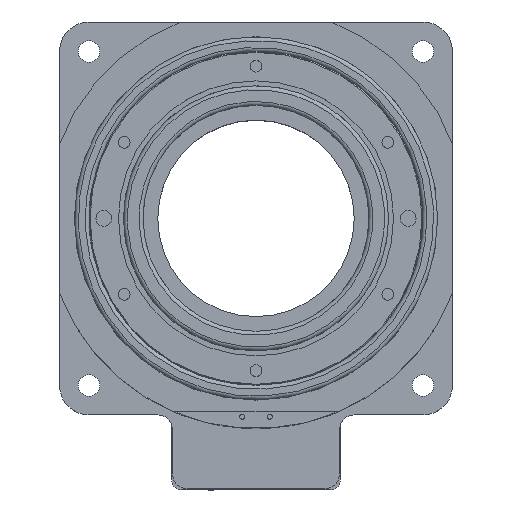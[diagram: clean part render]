
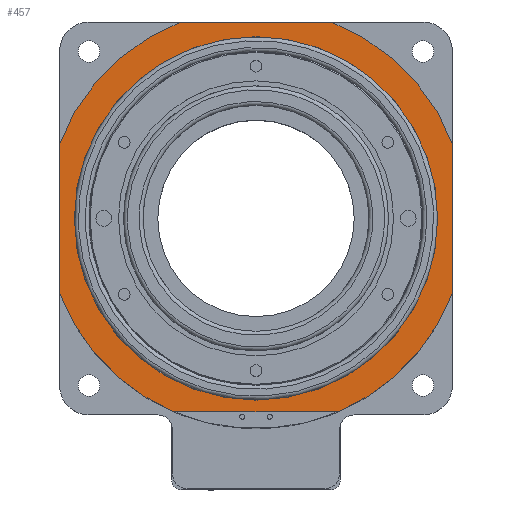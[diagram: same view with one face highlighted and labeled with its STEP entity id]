
A CAD part, top view. The second image highlights one B-rep face of the part: STEP entity #457.
In plain terms, the highlighted planar face has unit normal (0, 0, 1).
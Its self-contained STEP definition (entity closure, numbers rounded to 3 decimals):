
#148 = EDGE_CURVE ( 'NONE', #2591, #3096, #2737, .T. ) ;
#189 = DIRECTION ( 'NONE',  ( 0., 0., 1. ) ) ;
#323 = EDGE_LOOP ( 'NONE', ( #3317, #3258, #465, #3101, #960, #3702, #2866, #2835 ) ) ;
#426 = LINE ( 'NONE', #6488, #844 ) ;
#430 = EDGE_CURVE ( 'NONE', #3481, #3481, #3574, .T. ) ;
#457 = ADVANCED_FACE ( 'NONE', ( #5265, #1770 ), #5362, .T. ) ;
#465 = ORIENTED_EDGE ( 'NONE', *, *, #2002, .T. ) ;
#513 = DIRECTION ( 'NONE',  ( 1., 0., 0. ) ) ;
#691 = CARTESIAN_POINT ( 'NONE',  ( 100., -38.066, 42. ) ) ;
#700 = CARTESIAN_POINT ( 'NONE',  ( 0., 0., 42. ) ) ;
#844 = VECTOR ( 'NONE', #5796, 1000. ) ;
#864 = CARTESIAN_POINT ( 'NONE',  ( 0., 0., 42. ) ) ;
#960 = ORIENTED_EDGE ( 'NONE', *, *, #148, .T. ) ;
#972 = VECTOR ( 'NONE', #4771, 1000. ) ;
#1211 = DIRECTION ( 'NONE',  ( 0., 0., 1. ) ) ;
#1286 = EDGE_CURVE ( 'NONE', #1510, #1673, #4674, .T. ) ;
#1347 = VECTOR ( 'NONE', #1975, 1000. ) ;
#1357 = DIRECTION ( 'NONE',  ( -1., 0., 0. ) ) ;
#1510 = VERTEX_POINT ( 'NONE', #3176 ) ;
#1535 = AXIS2_PLACEMENT_3D ( 'NONE', #700, #5388, #4690 ) ;
#1673 = VERTEX_POINT ( 'NONE', #691 ) ;
#1759 = AXIS2_PLACEMENT_3D ( 'NONE', #6679, #5991, #5324 ) ;
#1770 = FACE_BOUND ( 'NONE', #5906, .T. ) ;
#1881 = CARTESIAN_POINT ( 'NONE',  ( 0., 0., 42. ) ) ;
#1975 = DIRECTION ( 'NONE',  ( -1., 0., 0. ) ) ;
#2002 = EDGE_CURVE ( 'NONE', #1673, #2122, #6124, .T. ) ;
#2050 = CARTESIAN_POINT ( 'NONE',  ( 38.066, 100., 42. ) ) ;
#2122 = VERTEX_POINT ( 'NONE', #6003 ) ;
#2147 = AXIS2_PLACEMENT_3D ( 'NONE', #864, #189, #6234 ) ;
#2221 = VECTOR ( 'NONE', #1357, 1000. ) ;
#2562 = AXIS2_PLACEMENT_3D ( 'NONE', #4842, #4117, #3402 ) ;
#2591 = VERTEX_POINT ( 'NONE', #6467 ) ;
#2648 = EDGE_CURVE ( 'NONE', #1510, #4348, #3344, .T. ) ;
#2668 = CARTESIAN_POINT ( 'NONE',  ( 0., -98.5, 42. ) ) ;
#2737 = LINE ( 'NONE', #2050, #2221 ) ;
#2805 = CARTESIAN_POINT ( 'NONE',  ( 92.5, 0., 42. ) ) ;
#2835 = ORIENTED_EDGE ( 'NONE', *, *, #3521, .T. ) ;
#2866 = ORIENTED_EDGE ( 'NONE', *, *, #6329, .T. ) ;
#3096 = VERTEX_POINT ( 'NONE', #6599 ) ;
#3101 = ORIENTED_EDGE ( 'NONE', *, *, #6381, .T. ) ;
#3176 = CARTESIAN_POINT ( 'NONE',  ( 41.794, -98.5, 42. ) ) ;
#3238 = DIRECTION ( 'NONE',  ( 1., 0., 0. ) ) ;
#3258 = ORIENTED_EDGE ( 'NONE', *, *, #1286, .T. ) ;
#3317 = ORIENTED_EDGE ( 'NONE', *, *, #2648, .F. ) ;
#3344 = LINE ( 'NONE', #2668, #1347 ) ;
#3402 = DIRECTION ( 'NONE',  ( 1., 0., 0. ) ) ;
#3481 = VERTEX_POINT ( 'NONE', #2805 ) ;
#3521 = EDGE_CURVE ( 'NONE', #4205, #4348, #3749, .T. ) ;
#3553 = CARTESIAN_POINT ( 'NONE',  ( -100., -38.066, 42. ) ) ;
#3574 = CIRCLE ( 'NONE', #2562, 92.5 ) ;
#3702 = ORIENTED_EDGE ( 'NONE', *, *, #6658, .T. ) ;
#3749 = CIRCLE ( 'NONE', #5041, 107. ) ;
#3861 = ORIENTED_EDGE ( 'NONE', *, *, #430, .F. ) ;
#3943 = DIRECTION ( 'NONE',  ( 0., 0., 1. ) ) ;
#4117 = DIRECTION ( 'NONE',  ( 0., 0., 1. ) ) ;
#4205 = VERTEX_POINT ( 'NONE', #3553 ) ;
#4211 = CARTESIAN_POINT ( 'NONE',  ( -100., 38.066, 42. ) ) ;
#4348 = VERTEX_POINT ( 'NONE', #6083 ) ;
#4452 = CIRCLE ( 'NONE', #1759, 107. ) ;
#4663 = CARTESIAN_POINT ( 'NONE',  ( 0., 0., 42. ) ) ;
#4674 = CIRCLE ( 'NONE', #1535, 107. ) ;
#4690 = DIRECTION ( 'NONE',  ( 1., 0., 0. ) ) ;
#4753 = AXIS2_PLACEMENT_3D ( 'NONE', #4663, #3943, #3238 ) ;
#4771 = DIRECTION ( 'NONE',  ( 0., 1., 0. ) ) ;
#4842 = CARTESIAN_POINT ( 'NONE',  ( 0., 0., 42. ) ) ;
#4990 = CIRCLE ( 'NONE', #2147, 107. ) ;
#5041 = AXIS2_PLACEMENT_3D ( 'NONE', #1881, #1211, #513 ) ;
#5265 = FACE_OUTER_BOUND ( 'NONE', #323, .T. ) ;
#5324 = DIRECTION ( 'NONE',  ( 1., 0., 0. ) ) ;
#5362 = PLANE ( 'NONE',  #4753 ) ;
#5388 = DIRECTION ( 'NONE',  ( 0., 0., 1. ) ) ;
#5451 = CARTESIAN_POINT ( 'NONE',  ( 100., -38.066, 42. ) ) ;
#5796 = DIRECTION ( 'NONE',  ( 0., -1., 0. ) ) ;
#5906 = EDGE_LOOP ( 'NONE', ( #3861 ) ) ;
#5991 = DIRECTION ( 'NONE',  ( 0., 0., 1. ) ) ;
#6003 = CARTESIAN_POINT ( 'NONE',  ( 100., 38.066, 42. ) ) ;
#6083 = CARTESIAN_POINT ( 'NONE',  ( -41.794, -98.5, 42. ) ) ;
#6124 = LINE ( 'NONE', #5451, #972 ) ;
#6234 = DIRECTION ( 'NONE',  ( 1., 0., 0. ) ) ;
#6259 = VERTEX_POINT ( 'NONE', #4211 ) ;
#6329 = EDGE_CURVE ( 'NONE', #6259, #4205, #426, .T. ) ;
#6381 = EDGE_CURVE ( 'NONE', #2122, #2591, #4452, .T. ) ;
#6467 = CARTESIAN_POINT ( 'NONE',  ( 38.066, 100., 42. ) ) ;
#6488 = CARTESIAN_POINT ( 'NONE',  ( -100., 38.066, 42. ) ) ;
#6599 = CARTESIAN_POINT ( 'NONE',  ( -38.066, 100., 42. ) ) ;
#6658 = EDGE_CURVE ( 'NONE', #3096, #6259, #4990, .T. ) ;
#6679 = CARTESIAN_POINT ( 'NONE',  ( 0., 0., 42. ) ) ;
